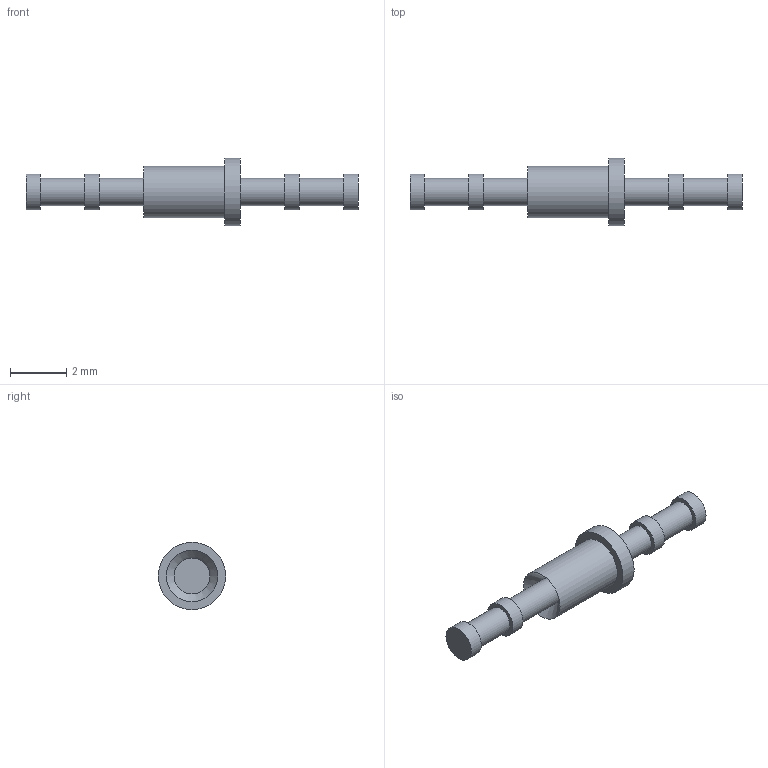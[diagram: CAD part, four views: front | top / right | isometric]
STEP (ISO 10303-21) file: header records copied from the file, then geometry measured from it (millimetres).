
FILE_DESCRIPTION(/* description */ (''),/* implementation_level */ '2;1');
FILE_NAME(/* name */ 'Z:\STEP folder\160-2040-03.ipt.stp',/* time_stamp */ '2016-12-07T10:50:04+00:00',/* author */ ('Paul Karlsons'),/* organization */ (''),/* preprocessor_version */ 'ST-DEVELOPER v15.2',/* originating_system */ 'Autodesk Inventor 2014',/* authorisation */ '');
FILE_SCHEMA (('AUTOMOTIVE_DESIGN { 1 0 10303 214 3 1 1 }'));
Length unit declared in the file: millimetre
Products named in the file (1): 160-2040-03
Bounding box: 11.76 x 2.39 x 2.39 mm (x, y, z)
Volume: 16.9 mm3; surface area: 63.2 mm2
Topology: 1 solids, 1 shells, 21 faces, 31 edges, 20 vertices
Faces by surface type: cylinder 10, plane 10, cone 1
Full cylindrical faces by diameter (mm): 0.965 x4, 1.27 x4, 1.829 x1, 2.388 x1
Entity records: 435 total; most frequent: DIRECTION 84, CARTESIAN_POINT 62, AXIS2_PLACEMENT_3D 42, EDGE_LOOP 40, ORIENTED_EDGE 40, FACE_BOUND 23, ADVANCED_FACE 21, CIRCLE 20
